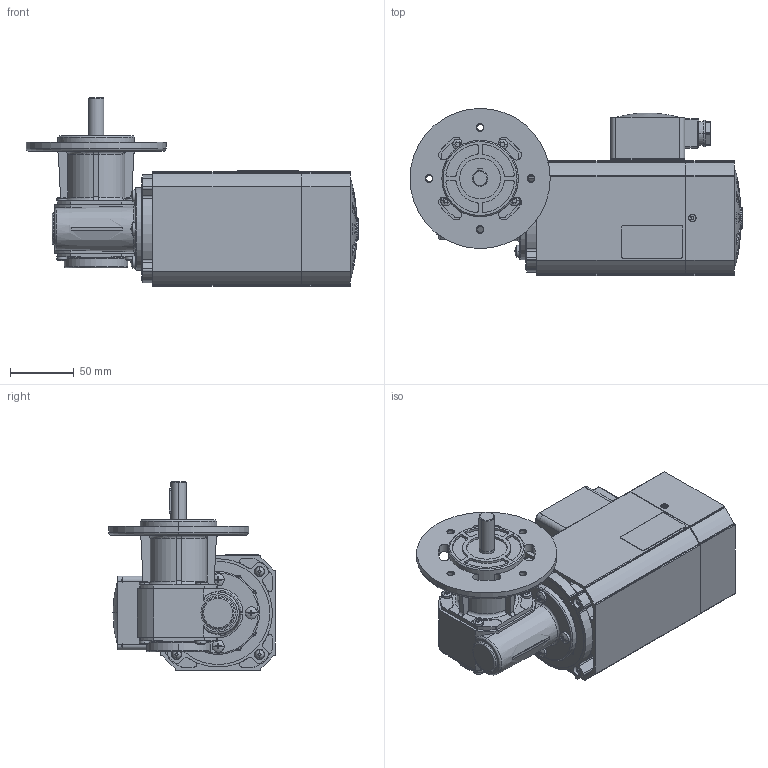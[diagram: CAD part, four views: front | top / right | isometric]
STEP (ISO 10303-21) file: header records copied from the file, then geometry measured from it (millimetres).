
FILE_DESCRIPTION (( 'STEP AP214' ), '1' );
FILE_NAME ('IGL80-60-without-foot-VE31-G-R_1 Groschopp.STEP', '2011-10-12T03:11:13', ( 'ywuypm' ), ( 'nbst' ), 'SwSTEP 2.0', 'SolidWorks 2007', '' );
FILE_SCHEMA (( 'AUTOMOTIVE_DESIGN' ));
Length unit declared in the file: millimetre
Products named in the file (4): IGL80-60-without-foot-VE31-G-R_1 Groschopp; Cross recessed thread forming screws GB_GB_CROSS_SCREWS_TYPE138 M5X12-N; VE31-G-R Groschopp; IGL80-60-without-foot
Assembly tree (5 placements, depth 2):
  IGL80-60-without-foot-VE31-G-R_1 Groschopp
    VE31-G-R Groschopp
    Cross recessed thread forming screws GB_GB_CROSS_SCREWS_TYPE138 M5X12-N  x3
    IGL80-60-without-foot
Bounding box: 260.5 x 131 x 148 mm (x, y, z)
Volume: 1704119.7 mm3; surface area: 190005.5 mm2
Topology: 5 solids, 5 shells, 1056 faces, 2766 edges, 1779 vertices
Faces by surface type: cylinder 469, plane 405, cone 83, torus 67, sphere 32
Entity records: 38292 total; most frequent: CARTESIAN_POINT 6852, DIRECTION 5615, ORIENTED_EDGE 5212, EDGE_CURVE 2606, AXIS2_PLACEMENT_3D 2170, VERTEX_POINT 1691, VECTOR 1275, LINE 1275
